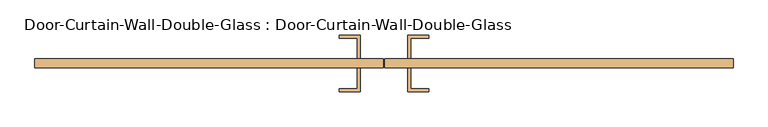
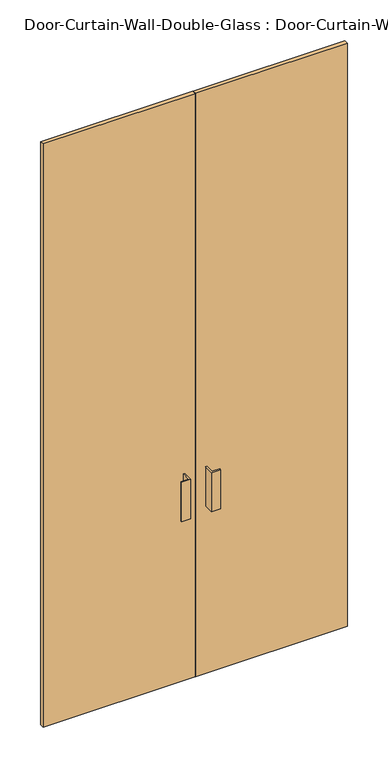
"""IFC4 building model written with IfcOpenShell, lengths in millimetres: door geometry, Door-Curtain-Wall-Double-Glass : Door-Curtain-Wall-Double-Glass."""

from ifc_helpers import new_model, si_unit, frame, origin, origin_with_axes, place, context, project, spatial, polyline, outline, extrude, source, transform, mapped, element, save


def door_curtain_wall_double_glass_door_curtain_wall_double_63a57486(model_context):
    return source(origin(), model_context, "Body", "SweptSolid", [
        extrude(outline(polyline([(-1.6143999, -31.75), (-1.6143999, -50.8), (-742.950003, -50.8), (-742.950003, -31.75), (-1.6143999, -31.75)])), origin_with_axes(), (0.0, 0.0, 1.0), 3009.9),
        extrude(outline(polyline([(742.950003, -31.75), (742.950003, -50.8), (1.5606001, -50.8), (1.5606001, -31.75), (742.950003, -31.75)])), origin_with_axes(), (0.0, 0.0, 1.0), 3009.9),
        extrude(outline(polyline([(-50.8268999, -101.6), (-95.2768999, -101.6), (-95.2768999, -95.25), (-57.1768999, -95.25), (-57.1768999, -50.8), (-50.8268999, -50.8), (-50.8268999, -101.6)])), frame((0.0, 0.0, 863.6), z_axis=(0.0, 0.0, 1.0), x_axis=(1.0, 0.0, 0.0)), (0.0, 0.0, 1.0), 203.2),
        extrude(outline(polyline([(50.7731001, -101.6), (50.7731001, -50.8), (57.1231001, -50.8), (57.1231001, -95.25), (95.2231001, -95.25), (95.2231001, -101.6), (50.7731001, -101.6)])), frame((0.0, 0.0, 863.6), z_axis=(0.0, 0.0, 1.0), x_axis=(1.0, 0.0, 0.0)), (0.0, 0.0, 1.0), 203.2),
        extrude(outline(polyline([(-50.8268999, 19.05), (-50.8268999, -31.75), (-57.1768999, -31.75), (-57.1768999, 12.7), (-95.2768999, 12.7), (-95.2768999, 19.05), (-50.8268999, 19.05)])), frame((0.0, 0.0, 863.6), z_axis=(0.0, 0.0, 1.0), x_axis=(1.0, 0.0, 0.0)), (0.0, 0.0, 1.0), 203.2),
        extrude(outline(polyline([(50.7731001, 19.05), (95.2231001, 19.05), (95.2231001, 12.7), (57.1231001, 12.7), (57.1231001, -31.75), (50.7731001, -31.75), (50.7731001, 19.05)])), frame((0.0, 0.0, 863.6), z_axis=(0.0, 0.0, 1.0), x_axis=(1.0, 0.0, 0.0)), (0.0, 0.0, 1.0), 203.2),
    ])


if __name__ == "__main__":
    model = new_model("IFC4")
    model_context = context("Model", 3, world=origin())
    ifc_project = project(units=[si_unit("LENGTHUNIT", "METRE", prefix="MILLI")], contexts=[model_context])
    site = spatial("IfcSite", under=ifc_project)
    building = spatial("IfcBuilding", under=site)
    placement = place(None, origin())
    door_curtain_wall_double_glass_door_curtain_wall_double_shape = door_curtain_wall_double_glass_door_curtain_wall_double_63a57486(model_context)
    element("IfcDoor", 1, ObjectType="Door-Curtain-Wall-Double-Glass : Door-Curtain-Wall-Double-Glass", at=placement, inside=building, context=model_context, shape_type="MappedRepresentation", body=[
        mapped(door_curtain_wall_double_glass_door_curtain_wall_double_shape, transform((0.0, 0.0, 0.0), x_axis=(1.0, 0.0, 0.0), y_axis=(0.0, 1.0, 0.0), z_axis=(0.0, 0.0, 1.0))),
    ])
    save(model, "model.ifc")
